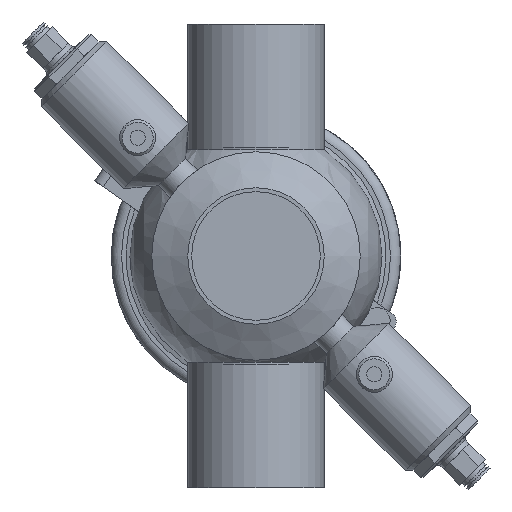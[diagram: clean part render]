
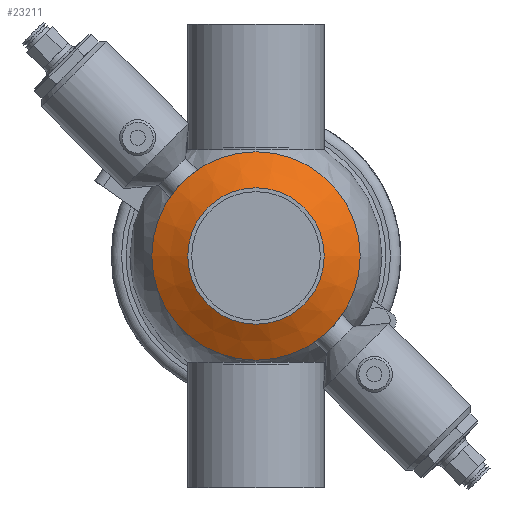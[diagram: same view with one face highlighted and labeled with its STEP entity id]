
A CAD part, front view. The second image highlights one B-rep face of the part: STEP entity #23211.
In plain terms, the highlighted conical face has half-angle 60 degrees and reference radius 40.5 mm.
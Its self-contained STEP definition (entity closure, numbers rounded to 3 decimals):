
#287 = EDGE_CURVE ( 'NONE', #702, #702, #14646, .T. ) ;
#626 = VERTEX_POINT ( 'NONE', #17061 ) ;
#702 = VERTEX_POINT ( 'NONE', #4081 ) ;
#734 = DIRECTION ( 'NONE',  ( 0., 1., 0. ) ) ;
#1577 = FACE_BOUND ( 'NONE', #15160, .T. ) ;
#1785 = DIRECTION ( 'NONE',  ( 0., 0., 1. ) ) ;
#1805 = DIRECTION ( 'NONE',  ( 0., 0., 1. ) ) ;
#3964 = DIRECTION ( 'NONE',  ( 0., 1., 0. ) ) ;
#4010 = CONICAL_SURFACE ( 'NONE', #13601, 40.5, 1.047 ) ;
#4081 = CARTESIAN_POINT ( 'NONE',  ( 0., -58.083, 26.5 ) ) ;
#4481 = AXIS2_PLACEMENT_3D ( 'NONE', #12624, #3964, #1785 ) ;
#7657 = ORIENTED_EDGE ( 'NONE', *, *, #21157, .F. ) ;
#9819 = CIRCLE ( 'NONE', #4481, 40.5 ) ;
#12624 = CARTESIAN_POINT ( 'NONE',  ( 0., -50., 0. ) ) ;
#12877 = FACE_OUTER_BOUND ( 'NONE', #21110, .T. ) ;
#13601 = AXIS2_PLACEMENT_3D ( 'NONE', #18242, #16226, #1805 ) ;
#14646 = CIRCLE ( 'NONE', #15038, 26.5 ) ;
#15038 = AXIS2_PLACEMENT_3D ( 'NONE', #20777, #734, #15149 ) ;
#15149 = DIRECTION ( 'NONE',  ( 0., 0., 1. ) ) ;
#15160 = EDGE_LOOP ( 'NONE', ( #22060 ) ) ;
#16226 = DIRECTION ( 'NONE',  ( 0., 1., 0. ) ) ;
#17061 = CARTESIAN_POINT ( 'NONE',  ( 0., -50., 40.5 ) ) ;
#18242 = CARTESIAN_POINT ( 'NONE',  ( 0., -50., 0. ) ) ;
#20777 = CARTESIAN_POINT ( 'NONE',  ( 0., -58.083, 0. ) ) ;
#21110 = EDGE_LOOP ( 'NONE', ( #7657 ) ) ;
#21157 = EDGE_CURVE ( 'NONE', #626, #626, #9819, .T. ) ;
#22060 = ORIENTED_EDGE ( 'NONE', *, *, #287, .T. ) ;
#23211 = ADVANCED_FACE ( 'NONE', ( #1577, #12877 ), #4010, .T. ) ;
